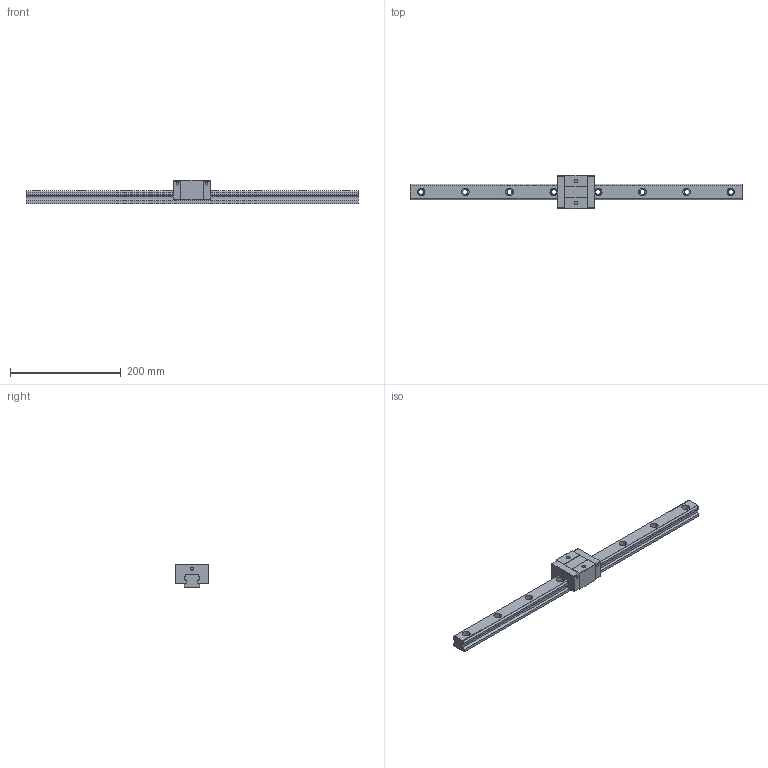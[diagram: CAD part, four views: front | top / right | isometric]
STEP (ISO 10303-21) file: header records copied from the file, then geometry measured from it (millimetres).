
FILE_DESCRIPTION (( 'STEP AP203' ), '1' );
FILE_NAME ('TRS30VS-XN.STEP', '2024-06-12T08:30:51', ( '' ), ( '' ), 'SwSTEP 2.0', 'SolidWorks 2022', '' );
FILE_SCHEMA (( 'CONFIG_CONTROL_DESIGN' ));
Length unit declared in the file: millimetre
Products named in the file (1): TRS30VS-XN
Bounding box: 600 x 60 x 42 mm (x, y, z)
Volume: 434237.4 mm3; surface area: 89318.4 mm2
Topology: 2 solids, 2 shells, 172 faces, 452 edges, 300 vertices
Faces by surface type: plane 88, cylinder 84
Entity records: 5459 total; most frequent: DIRECTION 966, CARTESIAN_POINT 925, ORIENTED_EDGE 904, EDGE_CURVE 452, AXIS2_PLACEMENT_3D 341, VERTEX_POINT 300, LINE 284, VECTOR 284
